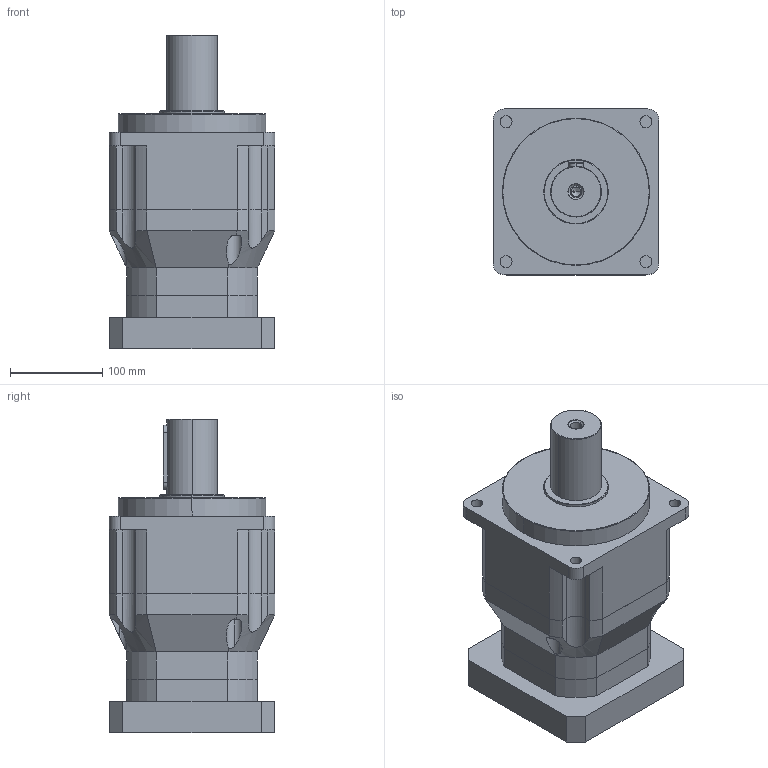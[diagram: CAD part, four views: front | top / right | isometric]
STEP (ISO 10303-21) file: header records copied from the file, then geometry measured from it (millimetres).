
FILE_DESCRIPTION (( 'STEP AP214' ), '1' );
FILE_NAME ('VRB180-L2-S2-P1 35-114.3-200-M12.STEP', '2021-04-24T07:09:22', ( 'User' ), ( 'china' ), 'SwSTEP 2.0', 'SolidWorks 2016', '' );
FILE_SCHEMA (( 'AUTOMOTIVE_DESIGN' ));
Length unit declared in the file: millimetre
Products named in the file (1): VRB180-L2-S2-P1 35-114.3-200-M12
Bounding box: 180.1 x 180.1 x 340 mm (x, y, z)
Volume: 6171170.1 mm3; surface area: 452157.1 mm2
Topology: 4 solids, 4 shells, 860 faces, 2431 edges, 1612 vertices
Faces by surface type: plane 654, cylinder 127, bspline 62, torus 9, cone 8
Entity records: 30372 total; most frequent: CARTESIAN_POINT 7199, ORIENTED_EDGE 4858, DIRECTION 4127, EDGE_CURVE 2429, LINE 1979, VECTOR 1979, VERTEX_POINT 1612, AXIS2_PLACEMENT_3D 1074
